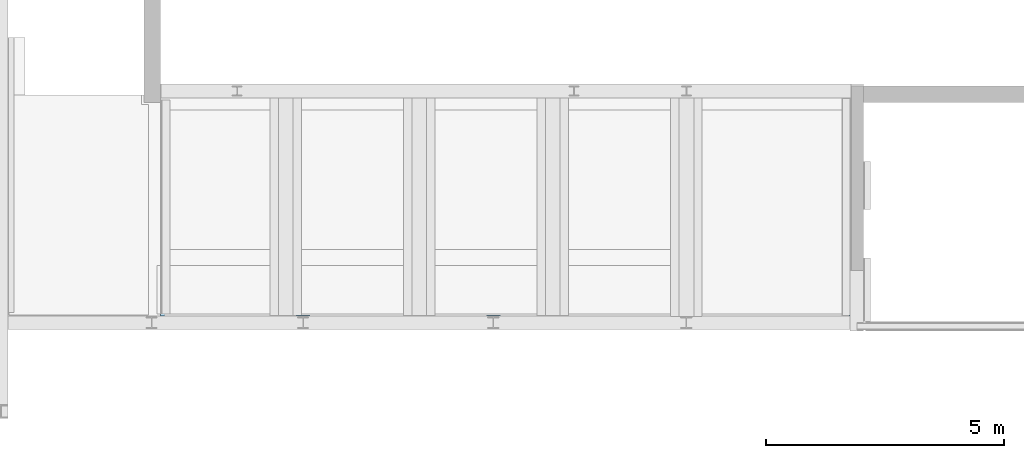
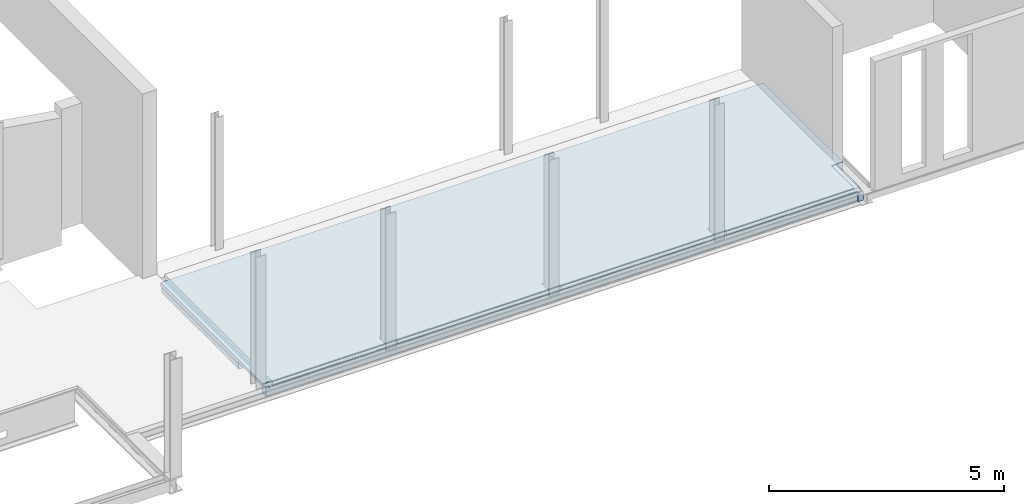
# One storey, part 37 of 38: 1 slab.
"""IFC2X3 building model written with IfcOpenShell, lengths in millimetres."""

from ifc_helpers import new_model, entity, si_unit, converted_unit, derived_unit, direction, frame, origin, place, context, subcontext, project, spatial, faceted_brep, material, type_object, element, save


model = new_model("IFC2X3")

# Units and contexts
model_context = context("Model", 3, precision=0.01, world=origin(), true_north=direction((6.12303176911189e-17, 1.0)))
body_context = subcontext(model_context, "Body", "Model", "MODEL_VIEW")
ifc_project = project(units=[si_unit("LENGTHUNIT", "METRE", prefix="MILLI"), si_unit("AREAUNIT", "SQUARE_METRE", prefix="MILLI"), si_unit("VOLUMEUNIT", "CUBIC_METRE"), converted_unit("PLANEANGLEUNIT", "DEGREE", entity("IfcRatioMeasure", 0.0174532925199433), si_unit("PLANEANGLEUNIT", "RADIAN"), dimensions=[0, 0, 0, 0, 0, 0, 0]), si_unit("MASSUNIT", "GRAM", prefix="KILO"), derived_unit("MASSDENSITYUNIT", [(si_unit("MASSUNIT", "GRAM", prefix="KILO"), 1), (si_unit("LENGTHUNIT", "METRE"), -3)]), derived_unit("MOMENTOFINERTIAUNIT", [(si_unit("LENGTHUNIT", "METRE"), 4)]), si_unit("TIMEUNIT", "SECOND"), si_unit("FREQUENCYUNIT", "HERTZ"), si_unit("THERMODYNAMICTEMPERATUREUNIT", "DEGREE_CELSIUS"), derived_unit("THERMALTRANSMITTANCEUNIT", [(si_unit("MASSUNIT", "GRAM", prefix="KILO"), 1), (si_unit("THERMODYNAMICTEMPERATUREUNIT", "KELVIN"), -1), (si_unit("TIMEUNIT", "SECOND"), -3)]), derived_unit("VOLUMETRICFLOWRATEUNIT", [(si_unit("LENGTHUNIT", "METRE"), 3), (si_unit("TIMEUNIT", "SECOND"), -1)]), si_unit("ELECTRICCURRENTUNIT", "AMPERE"), si_unit("ELECTRICVOLTAGEUNIT", "VOLT"), si_unit("POWERUNIT", "WATT"), si_unit("FORCEUNIT", "NEWTON", prefix="KILO"), si_unit("ILLUMINANCEUNIT", "LUX"), si_unit("LUMINOUSFLUXUNIT", "LUMEN"), si_unit("LUMINOUSINTENSITYUNIT", "CANDELA"), derived_unit("USERDEFINED", [(si_unit("MASSUNIT", "GRAM", prefix="KILO"), -1), (si_unit("LENGTHUNIT", "METRE"), -2), (si_unit("TIMEUNIT", "SECOND"), 3), (si_unit("LUMINOUSFLUXUNIT", "LUMEN"), 1)]), derived_unit("LINEARVELOCITYUNIT", [(si_unit("LENGTHUNIT", "METRE"), 1), (si_unit("TIMEUNIT", "SECOND"), -1)]), si_unit("PRESSUREUNIT", "PASCAL"), derived_unit("USERDEFINED", [(si_unit("LENGTHUNIT", "METRE"), -2), (si_unit("MASSUNIT", "GRAM", prefix="KILO"), 1), (si_unit("TIMEUNIT", "SECOND"), -2)]), derived_unit("LINEARFORCEUNIT", [(si_unit("MASSUNIT", "GRAM", prefix="KILO"), 1), (si_unit("LENGTHUNIT", "METRE"), 1), (si_unit("TIMEUNIT", "SECOND"), -2), (si_unit("LENGTHUNIT", "METRE"), -1)]), derived_unit("PLANARFORCEUNIT", [(si_unit("MASSUNIT", "GRAM", prefix="KILO"), 1), (si_unit("LENGTHUNIT", "METRE"), 1), (si_unit("TIMEUNIT", "SECOND"), -2), (si_unit("LENGTHUNIT", "METRE"), -2)])], contexts=[model_context])

# Site, building, storey
site_placement = place(None, origin())
site = spatial("IfcSite", under=ifc_project, at=site_placement, Name="Theater aan de Parade", CompositionType="ELEMENT")
building_placement = place(site_placement, origin())
building = spatial("IfcBuilding", under=site, at=building_placement, Name="Theater aan de Parade", CompositionType="ELEMENT")
storey_placement = place(building_placement, frame((0.0, 0.0, 12480.0)))
storey = spatial("IfcBuildingStorey", under=building, at=storey_placement, Name="03 derde verdieping", CompositionType="ELEMENT", Elevation=12480.0)

# Slab
ifc_material = material(Name="00_PBT_MAT_beton t.p.g._C30/37")
slab_type = type_object("IfcSlabType", Name="Floor:28_PBT_FL_druklaag_d=80 (=280)_C30/37", PredefinedType="FLOOR")
slab_placement = place(storey_placement, origin())
element("IfcSlab", 1, at=slab_placement, inside=storey, type_object=slab_type, material=ifc_material, Name="Floor:28_PBT_FL_druklaag_d=80 (=280)_C30/37", ObjectType="Floor:28_PBT_FL_druklaag_d=80 (=280)_C30/37", PredefinedType="FLOOR", context=body_context, shape_type="Brep", body=[
    faceted_brep([(78598.8589693, 15002.0, -280.0), (78763.3589693, 14962.0, -280.0), (76138.2082522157, 15002.0, -280.0), (78598.8589693, 16027.0, -280.0), (78598.8589693, 16367.0, -280.0), (76138.2082522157, 16027.0, -280.0), (75973.7082522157, 14974.699999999, -280.0), (76138.2082522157, 16367.0, -280.0), (75973.7082522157, 19304.0, -280.0), (76138.2082522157, 19304.0, -280.0), (78763.3589693, 19304.0, -280.0), (78598.8589693, 19304.0, -280.0), (75952.7082522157, 14974.699999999, -280.0), (73163.0575351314, 14974.699999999, -280.0), (67706.2561009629, 14962.0, -280.0), (73142.0575351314, 14974.699999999, -280.0), (70352.4068180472, 14974.699999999, -280.0), (70331.4068180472, 14974.699999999, -280.0), (70166.9068180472, 15002.0, -280.0), (67731.8062013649, 15002.0, -280.0), (67706.2561009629, 15002.0, -280.0), (70166.9068180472, 16027.0, -280.0), (70166.9068180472, 16367.0, -280.0), (67766.2561009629, 16367.0, -280.0), (67731.8062013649, 16027.0, -280.0), (67731.8062013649, 19304.0, -280.0), (67766.2561009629, 19304.0, -280.0), (70331.4068180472, 19304.0, -280.0), (70166.9068180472, 19304.0, -280.0), (70516.9068180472, 15002.0, -280.0), (70516.9068180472, 16027.0, -280.0), (70516.9068180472, 16367.0, -280.0), (70352.4068180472, 19304.0, -280.0), (70516.9068180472, 19304.0, -280.0), (72977.5575351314, 16027.0, -280.0), (72977.5575351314, 16367.0, -280.0), (73142.0575351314, 19304.0, -280.0), (72977.5575351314, 19304.0, -280.0), (72977.5575351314, 15002.0, -280.0), (75788.2082522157, 15002.0, -280.0), (73327.5575351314, 15002.0, -280.0), (73327.5575351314, 16027.0, -280.0), (73327.5575351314, 16367.0, -280.0), (73163.0575351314, 19304.0, -280.0), (73327.5575351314, 19304.0, -280.0), (75788.2082522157, 16367.0, -280.0), (75788.2082522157, 16027.0, -280.0), (75952.7082522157, 19304.0, -280.0), (75788.2082522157, 19304.0, -280.0), (82200.0084217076, 15002.0, -280.0), (82200.0084217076, 15925.0, -280.0), (82200.0084217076, 19304.0, -280.0), (82224.458321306, 19304.0, -280.0), (82224.458321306, 15925.0, -280.0), (82220.0084217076, 15925.0, -280.0), (82220.0084217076, 14982.0, -280.0), (82220.0084217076, 14962.0, -280.0), (78784.3589693, 14962.0, -280.0), (78784.3589693, 19304.0, -280.0), (78948.8589693, 19304.0, -280.0), (78948.8589693, 15002.0, -280.0), (82500.0084217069, 18218.4449317, -280.0), (82500.0084217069, 15925.0, -280.0), (82250.008421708, 15925.0, -280.0), (82250.008421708, 18218.4449317, -280.0), (82250.008421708, 19172.4449317, -280.0), (82250.008421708, 19304.0, -280.0), (82500.0084217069, 19304.0, -280.0), (82500.0084217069, 19172.4449317, -280.0), (82500.0084217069, 15925.0, -262.0), (82500.0084217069, 15925.0, -18.0), (82500.0084217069, 15925.0, 0.0), (82250.008421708, 15925.0, 0.0), (82220.0084217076, 15925.0, 0.0), (82220.0084217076, 15925.0, -18.0), (82330.7584217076, 15925.0, -18.0), (82335.3457972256, 15925.0, -19.9001531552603), (82339.2437030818, 15925.0, -21.5147186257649), (82343.486343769, 15925.0, -23.2720779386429), (82347.7289844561, 15925.0, -25.0294372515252), (82349.486343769, 15925.0, -29.2720779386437), (82351.2437030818, 15925.0, -33.5147186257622), (82352.8582685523, 15925.0, -37.4126244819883), (82354.7584217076, 15925.0, -42.0), (82354.7584217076, 15925.0, -238.0), (82352.8582685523, 15925.0, -242.587375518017), (82351.2437030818, 15925.0, -246.485281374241), (82349.486343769, 15925.0, -250.72792206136), (82347.7289844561, 15925.0, -254.970562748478), (82343.486343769, 15925.0, -256.727922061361), (82339.2437030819, 15925.0, -258.485281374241), (82335.3457972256, 15925.0, -260.099846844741), (82330.7584217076, 15925.0, -262.0), (82250.008421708, 15925.0, -262.0), (82226.5105856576, 15925.0, -277.033797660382), (82228.5628500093, 15925.0, -274.067595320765), (82229.2856358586, 15925.0, -270.533797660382), (82230.008421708, 15925.0, -267.0), (82230.008421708, 15925.0, -262.0), (82220.0084217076, 15925.0, -262.0), (78784.3589693, 14962.0, -262.0), (82220.0084217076, 14962.0, -262.0), (67706.2561009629, 14962.0, 0.0), (67706.2561009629, 14962.0, -18.0), (82220.0084217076, 14962.0, -18.0), (82220.0084217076, 14962.0, 0.0), (67706.2561009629, 14962.0, -262.0), (78763.3589693, 14962.0, -262.0), (82200.0084217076, 15002.0, -80.0), (78948.8589693, 15002.0, -80.0), (78948.8589693, 19304.0, -80.0), (82200.0084217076, 19304.0, -80.0), (78598.8589693, 19304.0, -80.0), (78598.8589693, 16367.0, -80.0), (76138.2082522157, 16367.0, -80.0), (76138.2082522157, 19304.0, -80.0), (78598.8589693, 16027.0, -80.0), (78598.8589693, 15002.0, -80.0), (76138.2082522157, 15002.0, -80.0), (76138.2082522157, 16027.0, -80.0), (75788.2082522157, 19304.0, -80.0), (75788.2082522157, 16367.0, -80.0), (73327.5575351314, 16367.0, -80.0), (73327.5575351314, 19304.0, -80.0), (75788.2082522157, 16027.0, -80.0), (75788.2082522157, 15002.0, -80.0), (73327.5575351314, 15002.0, -80.0), (73327.5575351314, 16027.0, -80.0), (72977.5575351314, 19304.0, -80.0), (72977.5575351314, 16367.0, -80.0), (70516.9068180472, 16367.0, -80.0), (70516.9068180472, 19304.0, -80.0), (72977.5575351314, 16027.0, -80.0), (72977.5575351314, 15002.0, -80.0), (70516.9068180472, 15002.0, -80.0), (70516.9068180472, 16027.0, -80.0), (70166.9068180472, 19304.0, -80.0), (70166.9068180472, 16367.0, -80.0), (67766.2561009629, 16367.0, -80.0), (67766.2561009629, 19304.0, -80.0), (72997.5575351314, 19304.0, -80.0), (73307.5575351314, 19304.0, -80.0), (73307.5575351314, 14974.699999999, -80.0), (72997.5575351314, 14974.699999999, -80.0), (75808.2082522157, 19304.0, -80.0), (76118.2082522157, 19304.0, -80.0), (76118.2082522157, 14974.699999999, -80.0), (75808.2082522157, 14974.699999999, -80.0), (78618.8589693, 19304.0, -80.0), (78928.8589693, 19304.0, -80.0), (78928.8589693, 14954.699999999, -80.0), (78618.8589693, 14954.699999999, -80.0), (70166.9068180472, 16027.0, -80.0), (70166.9068180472, 15002.0, -80.0), (67706.2561009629, 15002.0, -80.0), (67706.2561009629, 16027.0, -80.0), (70186.9068180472, 19304.0, -80.0), (70496.9068180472, 19304.0, -80.0), (70496.9068180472, 14974.699999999, -80.0), (70186.9068180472, 14974.699999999, -80.0), (67706.2561009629, 15002.0, -260.0), (67706.2561009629, 15002.0, -105.0), (67706.2561009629, 16027.0, -105.0), (67717.2561009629, 16027.0, -105.0), (67723.6200619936, 16027.0, -107.636038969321), (67726.2561009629, 16027.0, -114.0), (67726.2561009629, 16027.0, -267.0), (67726.9788868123, 16027.0, -270.533797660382), (67727.7016726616, 16027.0, -274.067595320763), (67729.2379406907, 16027.0, -276.288011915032), (82500.0084217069, 19304.0, 0.0), (82250.0084217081, 19304.0, 0.0), (67706.2561009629, 19304.0, 0.0), (67706.2561009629, 14851.249999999, -262.0), (67706.2561009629, 14846.3438546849, -261.493184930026), (67706.2561009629, 14841.6570597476, -259.99668975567), (67706.2561009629, 14835.7229719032, -254.370420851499), (67706.2561009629, 14829.787606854, -248.740841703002), (67706.2561009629, 14828.4973306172, -243.279533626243), (67706.2561009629, 14827.249999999, -238.0), (67706.2561009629, 14827.2499999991, -42.0), (67706.2561009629, 14829.2913266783, -37.0718014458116), (67706.2561009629, 14831.3326533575, -32.1436028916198), (67706.2561009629, 14834.2794372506, -25.0294372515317), (67706.2561009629, 14838.5220779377, -23.2720779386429), (67706.2561009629, 14842.7647186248, -21.5147186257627), (67706.2561009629, 14847.0073593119, -19.7573593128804), (67706.2561009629, 14851.249999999, -18.0), (67706.2561009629, 19304.0, -105.0), (78784.3589693, 19304.0, -146.0), (78786.704874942, 19304.0, -140.336482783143), (78789.0507805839, 19304.0, -134.672965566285), (78792.267086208, 19304.0, -126.908116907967), (78797.040056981, 19304.0, -124.931087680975), (78801.813027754, 19304.0, -122.954058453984), (78806.585998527, 19304.0, -120.977029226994), (78811.3589693, 19304.0, -119.0), (78928.8589693, 19304.0, -119.0), (78618.8589693, 19304.0, -119.0), (78736.3589693, 19304.0, -119.0), (78742.0224865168, 19304.0, -121.345905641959), (78747.6860037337, 19304.0, -123.691811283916), (78755.450852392, 19304.0, -126.908116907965), (78757.427881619, 19304.0, -131.681087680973), (78759.404910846, 19304.0, -136.454058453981), (78761.381940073, 19304.0, -141.227029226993), (78763.3589693, 19304.0, -146.0), (75973.7082522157, 19304.0, -146.0), (75976.0649952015, 19304.0, -140.310319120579), (75978.4217381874, 19304.0, -134.620638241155), (75981.6163691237, 19304.0, -126.908116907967), (75986.3893398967, 19304.0, -124.931087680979), (75991.1623106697, 19304.0, -122.954058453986), (75995.9352814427, 19304.0, -120.977029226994), (76000.7082522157, 19304.0, -119.0), (76118.2082522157, 19304.0, -119.0), (75808.2082522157, 19304.0, -119.0), (75925.7082522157, 19304.0, -119.0), (75931.3979330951, 19304.0, -121.356742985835), (75937.0876139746, 19304.0, -123.713485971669), (75944.8001353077, 19304.0, -126.908116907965), (75946.7771645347, 19304.0, -131.681087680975), (75948.7541937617, 19304.0, -136.454058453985), (75950.7312229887, 19304.0, -141.227029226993), (75952.7082522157, 19304.0, -146.0), (73163.0575351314, 19304.0, -146.0), (73165.4142781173, 19304.0, -140.310319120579), (73167.7710211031, 19304.0, -134.620638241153), (73170.9656520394, 19304.0, -126.908116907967), (73175.7386228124, 19304.0, -124.931087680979), (73180.5115935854, 19304.0, -122.954058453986), (73185.2845643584, 19304.0, -120.977029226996), (73190.0575351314, 19304.0, -119.0), (73307.5575351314, 19304.0, -119.0), (72997.5575351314, 19304.0, -119.0), (73115.0575351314, 19304.0, -119.0), (73120.7472160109, 19304.0, -121.356742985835), (73126.4368968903, 19304.0, -123.713485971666), (73134.1494182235, 19304.0, -126.908116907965), (73136.1264474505, 19304.0, -131.681087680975), (73138.1034766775, 19304.0, -136.454058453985), (73140.0805059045, 19304.0, -141.227029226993), (73142.0575351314, 19304.0, -146.0), (70352.4068180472, 19304.0, -146.0), (70354.763561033, 19304.0, -140.310319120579), (70357.1203040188, 19304.0, -134.620638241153), (70360.3149349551, 19304.0, -126.908116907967), (70365.0879057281, 19304.0, -124.931087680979), (70369.8608765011, 19304.0, -122.954058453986), (70374.6338472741, 19304.0, -120.977029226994), (70379.4068180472, 19304.0, -119.0), (70496.9068180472, 19304.0, -119.0), (70186.9068180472, 19304.0, -119.0), (70304.4068180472, 19304.0, -119.0), (70310.0964989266, 19304.0, -121.356742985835), (70315.786179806, 19304.0, -123.713485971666), (70323.4987011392, 19304.0, -126.908116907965), (70325.4757303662, 19304.0, -131.681087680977), (70327.4527595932, 19304.0, -136.454058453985), (70329.4297888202, 19304.0, -141.227029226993), (70331.4068180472, 19304.0, -146.0), (67729.7539370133, 19304.0, -277.03379766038), (67727.7016726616, 19304.0, -274.067595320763), (67726.9788868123, 19304.0, -270.533797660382), (67726.2561009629, 19304.0, -267.0), (67726.2561009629, 19304.0, -114.0), (67723.6200619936, 19304.0, -107.636038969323), (67717.2561009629, 19304.0, -105.0), (82250.008421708, 19304.0, -105.0), (82239.008421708, 19304.0, -105.0), (82232.6444606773, 19304.0, -107.636038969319), (82230.008421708, 19304.0, -114.0), (82230.008421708, 19304.0, -267.0), (82229.2856358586, 19304.0, -270.533797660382), (82228.5628500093, 19304.0, -274.067595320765), (82226.9490553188, 19304.0, -276.400063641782), (73163.0575351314, 14974.699999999, -146.0), (73142.0575351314, 14974.699999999, -146.0), (73140.0805059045, 14974.699999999, -141.227029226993), (73138.1034766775, 14974.699999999, -136.454058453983), (73136.1264474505, 14974.699999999, -131.681087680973), (73134.1494182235, 14974.699999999, -126.908116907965), (73129.3764474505, 14974.699999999, -124.931087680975), (73124.6034766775, 14974.699999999, -122.954058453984), (73120.7472160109, 14974.699999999, -121.356742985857), (73115.0575351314, 14974.699999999, -119.0), (72997.5575351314, 14974.699999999, -119.0), (73307.5575351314, 14974.699999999, -119.0), (73190.0575351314, 14974.699999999, -119.0), (73185.2845643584, 14974.699999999, -120.977029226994), (73180.5115935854, 14974.699999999, -122.954058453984), (73175.7386228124, 14974.699999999, -124.931087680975), (73170.9656520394, 14974.699999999, -126.908116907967), (73168.9886228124, 14974.699999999, -131.681087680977), (73167.0115935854, 14974.699999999, -136.454058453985), (73165.4142781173, 14974.699999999, -140.310319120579), (75973.7082522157, 14974.699999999, -146.0), (75952.7082522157, 14974.699999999, -146.0), (75950.7312229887, 14974.699999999, -141.227029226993), (75948.7541937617, 14974.699999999, -136.454058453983), (75946.7771645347, 14974.699999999, -131.681087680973), (75944.8001353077, 14974.699999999, -126.908116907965), (75940.0271645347, 14974.699999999, -124.931087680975), (75935.2541937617, 14974.699999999, -122.954058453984), (75931.3979330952, 14974.699999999, -121.356742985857), (75925.7082522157, 14974.699999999, -119.0), (75808.2082522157, 14974.699999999, -119.0), (76118.2082522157, 14974.699999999, -119.0), (76000.7082522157, 14974.699999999, -119.0), (75995.9352814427, 14974.699999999, -120.977029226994), (75991.1623106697, 14974.699999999, -122.954058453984), (75986.3893398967, 14974.699999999, -124.931087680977), (75981.6163691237, 14974.699999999, -126.908116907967), (75979.6393398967, 14974.699999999, -131.681087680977), (75977.6623106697, 14974.699999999, -136.454058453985), (75976.0649952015, 14974.699999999, -140.310319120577), (82230.008421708, 14974.699999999, -114.0), (82232.6444606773, 14974.699999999, -107.636038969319), (82239.008421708, 14974.699999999, -105.0), (82250.008421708, 14974.699999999, -105.0), (82250.008421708, 14974.699999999, -262.0), (82230.008421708, 14974.699999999, -262.0), (70352.4068180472, 14974.699999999, -146.0), (70331.4068180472, 14974.699999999, -146.0), (70329.4297888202, 14974.699999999, -141.227029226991), (70327.4527595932, 14974.699999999, -136.454058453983), (70325.4757303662, 14974.699999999, -131.681087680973), (70323.4987011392, 14974.699999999, -126.908116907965), (70318.7257303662, 14974.699999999, -124.931087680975), (70313.9527595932, 14974.699999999, -122.954058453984), (70310.0964989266, 14974.699999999, -121.356742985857), (70304.4068180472, 14974.699999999, -119.0), (70186.9068180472, 14974.699999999, -119.0), (70496.9068180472, 14974.699999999, -119.0), (70379.4068180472, 14974.699999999, -119.0), (70374.6338472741, 14974.699999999, -120.977029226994), (70369.8608765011, 14974.699999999, -122.954058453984), (70365.0879057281, 14974.699999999, -124.931087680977), (70360.3149349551, 14974.699999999, -126.908116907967), (70358.3379057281, 14974.699999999, -131.681087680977), (70356.3608765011, 14974.699999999, -136.454058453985), (70354.763561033, 14974.699999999, -140.310319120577), (73180.1084193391, 14827.249999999, -238.0), (82220.0084217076, 14827.249999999, -238.0), (82220.0084217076, 14827.249999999, -42.0), (76746.1561033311, 14827.249999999, -42.0), (74770.6932818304, 14828.396837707, -34.669722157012), (74061.2390244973, 14831.7277477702, -28.0399975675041), (82220.0084217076, 14829.2913266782, -37.0718014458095), (82220.0084217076, 14830.7647186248, -33.5147186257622), (82220.0084217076, 14838.5220779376, -23.2720779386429), (82220.0084217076, 14842.7647186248, -21.5147186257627), (74963.132261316, 14837.9163144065, -22.0447293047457), (82220.0084217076, 14832.5220779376, -29.2720779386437), (77131.682030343, 14834.3559971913, -24.9532211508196), (76746.1561033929, 14851.249999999, -18.0), (75778.7272210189, 14843.9197221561, -19.146837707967), (82220.0084217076, 14846.3218014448, -20.0413266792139), (82220.0084217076, 14834.2794372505, -25.0294372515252), (82220.0084217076, 14851.249999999, -18.0), (82220.0084217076, 14800.0, -18.0), (82330.7584217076, 14800.0, -18.0), (82354.7584217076, 14800.0, -42.0), (82354.7584217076, 14800.0, -238.0), (82347.7289844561, 14800.0, -25.0294372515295), (82349.3435499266, 14800.0, -28.9273431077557), (82350.9581153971, 14800.0, -32.8252489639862), (82352.8582685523, 14800.0, -37.4126244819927), (82335.0010623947, 14800.0, -19.7573593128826), (82339.2437030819, 14800.0, -21.5147186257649), (82343.486343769, 14800.0, -23.2720779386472), (78784.3589693, 14954.699999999, -146.0), (78784.3589693, 14954.699999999, -262.0), (78763.3589693, 14954.699999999, -262.0), (78763.3589693, 14954.699999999, -146.0), (78761.381940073, 14954.699999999, -141.227029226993), (78759.404910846, 14954.699999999, -136.454058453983), (78757.427881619, 14954.699999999, -131.681087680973), (78755.450852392, 14954.699999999, -126.908116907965), (78750.677881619, 14954.699999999, -124.931087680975), (78745.904910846, 14954.699999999, -122.954058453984), (78742.0224865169, 14954.699999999, -121.34590564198), (78736.3589693, 14954.699999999, -119.0), (78618.8589693, 14954.699999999, -119.0), (78928.8589693, 14954.699999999, -119.0), (78811.3589693, 14954.699999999, -119.0), (78806.585998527, 14954.699999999, -120.977029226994), (78801.813027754, 14954.699999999, -122.954058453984), (78797.040056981, 14954.699999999, -124.931087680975), (78792.267086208, 14954.699999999, -126.908116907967), (78790.290056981, 14954.699999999, -131.681087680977), (78788.313027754, 14954.699999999, -136.454058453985), (78786.704874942, 14954.699999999, -140.336482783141), (82330.7584217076, 14800.0, -262.0), (82220.0084217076, 14800.0, -262.0), (82220.0084217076, 14851.249999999, -262.0), (74963.1322613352, 14851.249999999, -262.0), (74058.5203285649, 14843.962750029, -260.866919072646), (75100.0686089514, 14837.9163144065, -257.955270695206), (82220.0084217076, 14842.7647186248, -258.485281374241), (82220.0084217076, 14838.5220779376, -256.727922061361), (82220.0084217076, 14834.2794372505, -254.97056274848), (75004.3088310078, 14828.3510920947, -245.186098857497), (74559.632831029, 14831.969930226, -252.292617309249), (82220.0084217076, 14829.0073593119, -242.242640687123), (82220.0084217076, 14847.0073593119, -260.242640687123), (82220.0084217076, 14830.7647186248, -246.485281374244), (82220.0084217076, 14832.5220779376, -250.72792206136), (82347.728984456, 14800.0, -254.970562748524), (82343.8310785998, 14800.0, -256.585128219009), (82339.9331727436, 14800.0, -258.199693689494), (82335.3457972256, 14800.0, -260.09984684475), (82353.0010623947, 14800.0, -242.242640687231), (82351.2437030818, 14800.0, -246.485281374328), (82349.4863437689, 14800.0, -250.727922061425)], [[[0, 1, 2]], [[1, 0, 3]], [[1, 3, 4]], [[4, 3, 5]], [[5, 2, 6]], [[7, 4, 5]], [[6, 7, 5]], [[7, 6, 8]], [[9, 7, 8]], [[4, 10, 1]], [[4, 11, 10]], [[6, 1, 12]], [[2, 1, 6]], [[13, 12, 1]], [[1, 14, 13]], [[15, 13, 14]], [[16, 15, 14]], [[17, 16, 14]], [[14, 18, 17]], [[14, 19, 18]], [[19, 14, 20]], [[18, 21, 17]], [[21, 22, 17]], [[21, 23, 22]], [[23, 21, 24]], [[23, 24, 25]], [[23, 25, 26]], [[22, 27, 17]], [[27, 22, 28]], [[29, 15, 16]], [[30, 29, 16]], [[31, 30, 16]], [[31, 16, 32]], [[31, 32, 33]], [[34, 30, 31]], [[35, 34, 31]], [[15, 35, 36]], [[37, 36, 35]], [[34, 35, 15]], [[29, 38, 15]], [[15, 38, 34]], [[12, 13, 39]], [[39, 13, 40]], [[41, 40, 13]], [[13, 42, 41]], [[43, 42, 13]], [[44, 42, 43]], [[42, 45, 41]], [[45, 12, 46]], [[41, 45, 46]], [[45, 47, 12]], [[48, 47, 45]], [[12, 39, 46]], [[49, 50, 51, 52, 53, 54, 55, 56, 57, 58, 59, 60]], [[61, 62, 63, 64, 65, 66, 67, 68]], [[62, 69, 70, 71, 72, 73, 74, 75, 76, 77, 78, 79, 80, 81, 82, 83, 84, 85, 86, 87, 88, 89, 90, 91, 92, 93, 63]], [[54, 53, 94, 95, 96, 97, 98, 99]], [[100, 57, 56, 101]], [[102, 103, 104, 105]], [[106, 14, 1, 107]], [[108, 109, 110, 111]], [[112, 113, 114, 115]], [[116, 117, 118, 119]], [[120, 121, 122, 123]], [[124, 125, 126, 127]], [[128, 129, 130, 131]], [[132, 133, 134, 135]], [[136, 137, 138, 139]], [[140, 141, 142, 143]], [[144, 145, 146, 147]], [[148, 149, 150, 151]], [[152, 153, 154, 155]], [[156, 157, 158, 159]], [[153, 18, 19, 20, 160, 161, 154]], [[133, 38, 29, 134]], [[125, 39, 40, 126]], [[117, 0, 2, 118]], [[108, 49, 60, 109]], [[29, 30, 135, 134]], [[130, 31, 33, 131]], [[153, 152, 21, 18]], [[22, 137, 136, 28]], [[40, 41, 127, 126]], [[42, 44, 123, 122]], [[133, 132, 34, 38]], [[35, 129, 128, 37]], [[118, 2, 5, 119]], [[7, 9, 115, 114]], [[39, 125, 124, 46]], [[45, 121, 120, 48]], [[117, 116, 3, 0]], [[4, 113, 112, 11]], [[24, 21, 152, 155, 162, 163, 164, 165, 166, 167, 168, 169]], [[119, 5, 3, 116]], [[127, 41, 46, 124]], [[135, 30, 34, 132]], [[129, 35, 31, 130]], [[121, 45, 42, 122]], [[113, 4, 7, 114]], [[137, 22, 23, 138]], [[102, 105, 73, 72, 71, 170, 171, 172]], [[173, 174, 175, 176, 177, 178, 179, 180, 181, 182, 183, 184, 185, 186, 187, 103, 102, 172, 188, 162, 155, 154, 161, 160, 20, 14, 106]], [[61, 68, 67, 170, 71, 70, 69, 62]], [[51, 111, 110, 59, 58, 189, 190, 191, 192, 193, 194, 195, 196, 197, 149, 148, 198, 199, 200, 201, 202, 203, 204, 205, 206, 10, 11, 112, 115, 9, 8, 207, 208, 209, 210, 211, 212, 213, 214, 215, 145, 144, 216, 217, 218, 219, 220, 221, 222, 223, 224, 47, 48, 120, 123, 44, 43, 225, 226, 227, 228, 229, 230, 231, 232, 233, 141, 140, 234, 235, 236, 237, 238, 239, 240, 241, 242, 36, 37, 128, 131, 33, 32, 243, 244, 245, 246, 247, 248, 249, 250, 251, 157, 156, 252, 253, 254, 255, 256, 257, 258, 259, 260, 27, 28, 136, 139, 26, 25, 261, 262, 263, 264, 265, 266, 267, 188, 172, 171, 170, 67, 66, 268, 269, 270, 271, 272, 273, 274, 275, 52]], [[276, 13, 15, 277, 278, 279, 280, 281, 282, 283, 284, 285, 286, 143, 142, 287, 288, 289, 290, 291, 292, 293, 294, 295]], [[296, 6, 12, 297, 298, 299, 300, 301, 302, 303, 304, 305, 306, 147, 146, 307, 308, 309, 310, 311, 312, 313, 314, 315]], [[316, 317, 318, 319, 320, 321]], [[322, 16, 17, 323, 324, 325, 326, 327, 328, 329, 330, 331, 332, 159, 158, 333, 334, 335, 336, 337, 338, 339, 340, 341]], [[234, 140, 143, 286]], [[141, 233, 287, 142]], [[216, 144, 147, 306]], [[145, 215, 307, 146]], [[179, 342, 343, 344, 345, 180]], [[346, 347, 182]], [[346, 181, 345]], [[345, 348, 346]], [[349, 347, 346]], [[350, 351, 352]], [[184, 183, 352, 185]], [[346, 348, 349]], [[344, 348, 345]], [[180, 345, 181]], [[347, 183, 182]], [[347, 353, 354]], [[355, 186, 356]], [[349, 353, 347]], [[352, 356, 185]], [[354, 352, 183]], [[355, 356, 357]], [[354, 350, 352]], [[358, 354, 353]], [[357, 356, 351]], [[357, 359, 355]], [[355, 187, 186]], [[346, 182, 181]], [[356, 352, 351]], [[350, 354, 358]], [[347, 354, 183]], [[186, 185, 356]], [[104, 103, 187, 355, 359, 360, 361, 75, 74]], [[362, 363, 84, 83]], [[81, 80, 79, 364, 365, 366, 367, 362, 83, 82]], [[78, 77, 76, 75, 361, 368, 369, 370, 364, 79]], [[105, 104, 74, 73]], [[101, 56, 55, 54, 99]], [[371, 372, 373, 374, 375, 376, 377, 378, 379, 380, 381, 382, 383, 151, 150, 384, 385, 386, 387, 388, 389, 390, 391, 392]], [[198, 148, 151, 383]], [[149, 197, 384, 150]], [[235, 234, 286, 285]], [[233, 232, 288, 287]], [[217, 216, 306, 305]], [[215, 214, 308, 307]], [[199, 198, 383, 382]], [[197, 196, 385, 384]], [[253, 252, 332, 331]], [[251, 250, 334, 333]], [[235, 285, 284, 283, 282, 281, 238, 237, 236]], [[280, 279, 278, 277, 242, 241, 240, 239, 238, 281]], [[36, 242, 277, 15]], [[225, 43, 13, 276]], [[225, 276, 295, 294, 293, 292, 228, 227, 226]], [[291, 290, 289, 288, 232, 231, 230, 229, 228, 292]], [[217, 305, 304, 303, 302, 301, 220, 219, 218]], [[300, 299, 298, 297, 224, 223, 222, 221, 220, 301]], [[47, 224, 297, 12]], [[207, 8, 6, 296]], [[207, 296, 315, 314, 313, 312, 210, 209, 208]], [[311, 310, 309, 308, 214, 213, 212, 211, 210, 312]], [[373, 372, 100, 101, 99, 98, 321, 320, 93, 92, 393, 394, 395, 396, 173, 106, 107]], [[175, 397, 398]], [[174, 397, 175]], [[396, 397, 174]], [[398, 399, 400, 401]], [[396, 174, 173]], [[398, 397, 399]], [[342, 178, 402]], [[177, 403, 402]], [[176, 175, 398]], [[402, 404, 342]], [[342, 179, 178]], [[177, 176, 403]], [[401, 403, 398]], [[396, 395, 405]], [[402, 403, 406]], [[177, 402, 178]], [[407, 406, 403, 401]], [[403, 176, 398]], [[397, 396, 405]], [[405, 399, 397]], [[343, 342, 404]], [[402, 406, 404]], [[90, 89, 88, 408, 409, 410, 411, 393, 92, 91]], [[87, 86, 85, 84, 363, 412, 413, 414, 408, 88]], [[199, 382, 381, 380, 379, 378, 202, 201, 200]], [[377, 376, 375, 374, 206, 205, 204, 203, 202, 378]], [[10, 206, 374, 373, 107, 1]], [[189, 58, 57, 100, 372, 371]], [[189, 371, 392, 391, 390, 389, 192, 191, 190]], [[388, 387, 386, 385, 196, 195, 194, 193, 192, 389]], [[108, 111, 51, 50, 49]], [[60, 59, 110, 109]], [[319, 318, 269, 268]], [[188, 267, 163, 162]], [[98, 97, 272, 271, 316, 321]], [[95, 94, 53, 52, 275, 274]], [[96, 95, 274, 273, 272, 97]], [[65, 64, 63, 93, 320, 319, 268, 66]], [[270, 317, 316, 271]], [[269, 318, 317, 270]], [[252, 156, 159, 332]], [[253, 331, 330, 329, 328, 327, 256, 255, 254]], [[326, 325, 324, 323, 260, 259, 258, 257, 256, 327]], [[27, 260, 323, 17]], [[243, 32, 16, 322]], [[243, 322, 341, 340, 339, 338, 246, 245, 244]], [[337, 336, 335, 334, 250, 249, 248, 247, 246, 338]], [[157, 251, 333, 158]], [[394, 360, 359, 357, 351, 350, 358, 353, 349, 348, 344, 343, 404, 406, 407, 401, 400, 399, 405, 395]], [[414, 413, 412, 363, 362, 367, 366, 365, 364, 370, 369, 368, 361, 360, 394, 393, 411, 410, 409, 408]], [[138, 23, 26, 139]], [[265, 264, 166, 165]], [[262, 261, 25, 24, 169, 168]], [[263, 262, 168, 167, 166, 264]], [[164, 266, 265, 165]], [[163, 267, 266, 164]]]),
])

save(model, "model.ifc")
